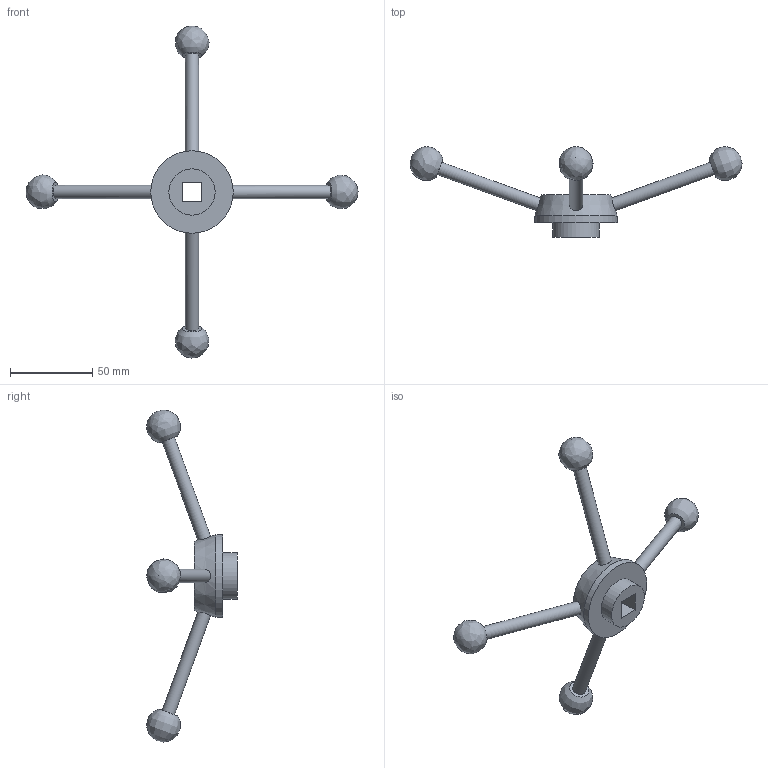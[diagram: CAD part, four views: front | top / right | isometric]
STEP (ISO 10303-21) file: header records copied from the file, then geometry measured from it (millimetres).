
FILE_DESCRIPTION( ( 'STEP AP203' ), '1' );
FILE_NAME( 'C:/Temp/Ganter_Step_05_03_2020/data/2_1/gn_213/gn_213_v/Turret lever GN 213-50-V12.stp', '2020-03-05T11:51:17', ( 'License CC BY-ND 4.0' ), ( 'CADENAS' ), ' ', 'PARTsolutions', ' ' );
FILE_SCHEMA( ( 'CONFIG_CONTROL_DESIGN' ) );
Length unit declared in the file: millimetre
Products named in the file (1): _Turret lever GN 213-50-V12
Bounding box: 201.3 x 55 x 201.3 mm (x, y, z)
Volume: 61840.5 mm3; surface area: 18973 mm2
Topology: 1 solids, 1 shells, 22 faces, 50 edges, 34 vertices
Faces by surface type: plane 11, cylinder 6, bspline 4, cone 1
Full cylindrical faces by diameter (mm): 8 x4, 28 x1, 50 x1
Entity records: 890 total; most frequent: CARTESIAN_POINT 449, DIRECTION 76, ORIENTED_EDGE 58, EDGE_LOOP 40, AXIS2_PLACEMENT_3D 32, VERTEX_POINT 29, EDGE_CURVE 29, FACE_OUTER_BOUND 28
